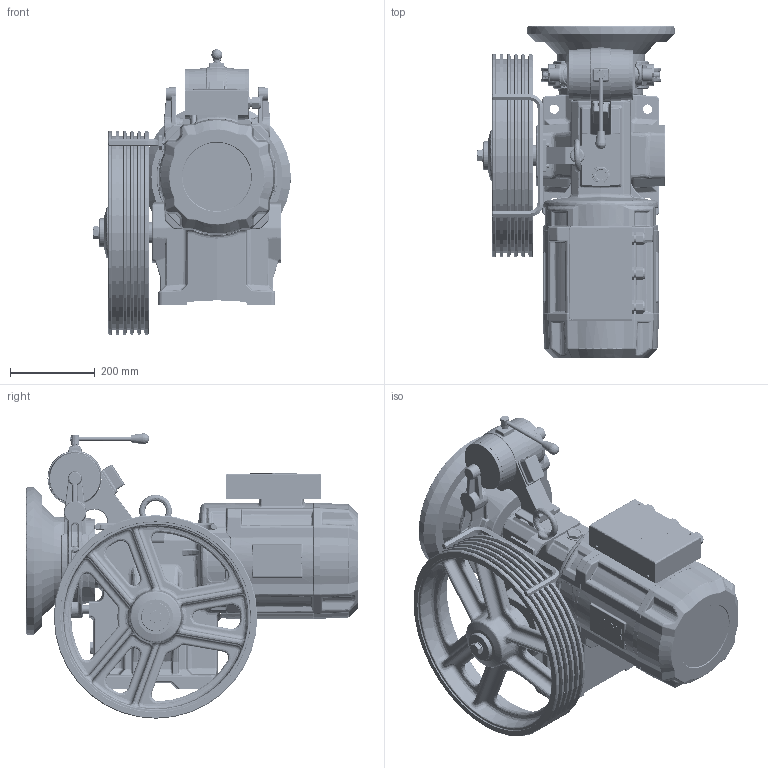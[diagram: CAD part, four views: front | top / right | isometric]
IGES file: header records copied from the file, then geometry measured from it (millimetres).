
Start section: START RECORD GO HERE.
Global section: file name: gearbox BL245.igs; native system: DASSAULT SYSTEMES CATIA Version 5-6 Release 2017 - www.3ds.com; preprocessor: V5-6R2017_5.27.2.0.03-10-2017.22.00; author: j_siahi; organization: BEHRANLIFT; date: 20230619.144732; units: millimetre
Bounding box: 465.83 x 782.19 x 672.72 mm (x, y, z)
Surface area: 2443638.2 mm2 (no closed solid volume)
Topology: 0 solids, 0 shells, 5888 faces, 29829 edges, 29567 vertices
Faces by surface type: revolution 2180, plane 1971, bspline 1693, extrusion 44
